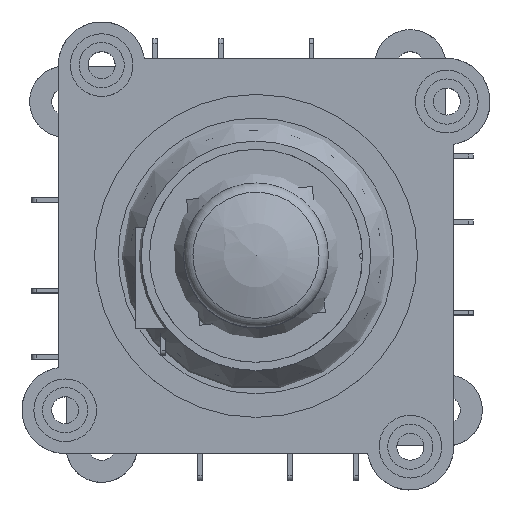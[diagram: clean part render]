
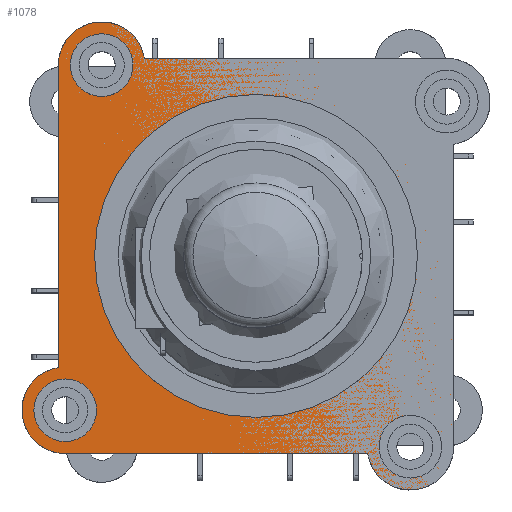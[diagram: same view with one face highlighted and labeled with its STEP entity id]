
A CAD part, top view. The second image highlights one B-rep face of the part: STEP entity #1078.
In plain terms, the highlighted planar face has unit normal (0, 0, 1).
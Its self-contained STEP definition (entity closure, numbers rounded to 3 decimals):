
#1078 = ADVANCED_FACE( '', ( #2340, #2341, #2342, #2343, #2344, #2345 ), #2346, .F. );
#2340 = FACE_BOUND( '', #3685, .T. );
#2341 = FACE_BOUND( '', #3686, .T. );
#2342 = FACE_BOUND( '', #3687, .T. );
#2343 = FACE_BOUND( '', #3688, .T. );
#2344 = FACE_BOUND( '', #3689, .T. );
#2345 = FACE_OUTER_BOUND( '', #3690, .T. );
#2346 = PLANE( '', #3691 );
#3685 = EDGE_LOOP( '', ( #6192 ) );
#3686 = EDGE_LOOP( '', ( #6193 ) );
#3687 = EDGE_LOOP( '', ( #6194 ) );
#3688 = EDGE_LOOP( '', ( #6195 ) );
#3689 = EDGE_LOOP( '', ( #6196 ) );
#3690 = EDGE_LOOP( '', ( #6197, #6198, #6199, #6200, #6201, #6202, #6203, #6204 ) );
#3691 = AXIS2_PLACEMENT_3D( '', #6205, #6206, #6207 );
#6192 = ORIENTED_EDGE( '', *, *, #6481, .T. );
#6193 = ORIENTED_EDGE( '', *, *, #6975, .T. );
#6194 = ORIENTED_EDGE( '', *, *, #7243, .T. );
#6195 = ORIENTED_EDGE( '', *, *, #7285, .T. );
#6196 = ORIENTED_EDGE( '', *, *, #6407, .T. );
#6197 = ORIENTED_EDGE( '', *, *, #7098, .F. );
#6198 = ORIENTED_EDGE( '', *, *, #7163, .F. );
#6199 = ORIENTED_EDGE( '', *, *, #6769, .F. );
#6200 = ORIENTED_EDGE( '', *, *, #6908, .F. );
#6201 = ORIENTED_EDGE( '', *, *, #7213, .F. );
#6202 = ORIENTED_EDGE( '', *, *, #7152, .F. );
#6203 = ORIENTED_EDGE( '', *, *, #6559, .F. );
#6204 = ORIENTED_EDGE( '', *, *, #6877, .F. );
#6205 = CARTESIAN_POINT( '', ( -16.01, 19.79, 1.9 ) );
#6206 = DIRECTION( '', ( 0., 0., -1. ) );
#6207 = DIRECTION( '', ( -1., 0., 0. ) );
#6407 = EDGE_CURVE( '', #7354, #7354, #7355, .T. );
#6481 = EDGE_CURVE( '', #7479, #7479, #7480, .T. );
#6559 = EDGE_CURVE( '', #7607, #7609, #7610, .T. );
#6769 = EDGE_CURVE( '', #7969, #7971, #7972, .T. );
#6877 = EDGE_CURVE( '', #8126, #7607, #8128, .T. );
#6908 = EDGE_CURVE( '', #8172, #7969, #8174, .T. );
#6975 = EDGE_CURVE( '', #8269, #8269, #8270, .T. );
#7098 = EDGE_CURVE( '', #8446, #8126, #8448, .T. );
#7152 = EDGE_CURVE( '', #7609, #8517, #8518, .T. );
#7163 = EDGE_CURVE( '', #7971, #8446, #8530, .T. );
#7213 = EDGE_CURVE( '', #8517, #8172, #8589, .T. );
#7243 = EDGE_CURVE( '', #8625, #8625, #8626, .T. );
#7285 = EDGE_CURVE( '', #8676, #8676, #8677, .T. );
#7354 = VERTEX_POINT( '', #8752 );
#7355 = CIRCLE( '', #8753, 3.25 );
#7479 = VERTEX_POINT( '', #8905 );
#7480 = CIRCLE( '', #8906, 16.75 );
#7607 = VERTEX_POINT( '', #9114 );
#7609 = VERTEX_POINT( '', #9117 );
#7610 = CIRCLE( '', #9118, 4.49 );
#7969 = VERTEX_POINT( '', #9572 );
#7971 = VERTEX_POINT( '', #9575 );
#7972 = CIRCLE( '', #9576, 4.49 );
#8126 = VERTEX_POINT( '', #9774 );
#8128 = LINE( '', #9777, #9778 );
#8172 = VERTEX_POINT( '', #9833 );
#8174 = LINE( '', #9836, #9837 );
#8269 = VERTEX_POINT( '', #9953 );
#8270 = CIRCLE( '', #9954, 3.25 );
#8446 = VERTEX_POINT( '', #10156 );
#8448 = CIRCLE( '', #10159, 4.49 );
#8517 = VERTEX_POINT( '', #10243 );
#8518 = LINE( '', #10244, #10245 );
#8530 = LINE( '', #10259, #10260 );
#8589 = CIRCLE( '', #10328, 4.49 );
#8625 = VERTEX_POINT( '', #10372 );
#8626 = CIRCLE( '', #10373, 3.25 );
#8676 = VERTEX_POINT( '', #10424 );
#8677 = CIRCLE( '', #10425, 3.25 );
#8752 = CARTESIAN_POINT( '', ( 12.76, -19.79, 1.9 ) );
#8753 = AXIS2_PLACEMENT_3D( '', #10496, #10497, #10498 );
#8905 = CARTESIAN_POINT( '', ( -16.75, 0., 1.9 ) );
#8906 = AXIS2_PLACEMENT_3D( '', #10599, #10600, #10601 );
#9114 = CARTESIAN_POINT( '', ( 19.79, 20.5, 1.9 ) );
#9117 = CARTESIAN_POINT( '', ( 20.5, 11.576, 1.9 ) );
#9118 = AXIS2_PLACEMENT_3D( '', #10710, #10711, #10712 );
#9572 = CARTESIAN_POINT( '', ( -19.79, -20.5, 1.9 ) );
#9575 = CARTESIAN_POINT( '', ( -20.5, -11.576, 1.9 ) );
#9576 = AXIS2_PLACEMENT_3D( '', #11043, #11044, #11045 );
#9774 = CARTESIAN_POINT( '', ( -11.576, 20.5, 1.9 ) );
#9777 = CARTESIAN_POINT( '', ( -11.576, 20.5, 1.9 ) );
#9778 = VECTOR( '', #11169, 1000. );
#9833 = CARTESIAN_POINT( '', ( 11.576, -20.5, 1.9 ) );
#9836 = CARTESIAN_POINT( '', ( 11.576, -20.5, 1.9 ) );
#9837 = VECTOR( '', #11203, 1000. );
#9953 = CARTESIAN_POINT( '', ( 16.54, 16.01, 1.9 ) );
#9954 = AXIS2_PLACEMENT_3D( '', #11288, #11289, #11290 );
#10156 = CARTESIAN_POINT( '', ( -20.5, 19.79, 1.9 ) );
#10159 = AXIS2_PLACEMENT_3D( '', #11456, #11457, #11458 );
#10243 = CARTESIAN_POINT( '', ( 20.5, -19.79, 1.9 ) );
#10244 = CARTESIAN_POINT( '', ( 20.5, 11.576, 1.9 ) );
#10245 = VECTOR( '', #11519, 1000. );
#10259 = CARTESIAN_POINT( '', ( -20.5, -11.576, 1.9 ) );
#10260 = VECTOR( '', #11531, 1000. );
#10328 = AXIS2_PLACEMENT_3D( '', #11580, #11581, #11582 );
#10372 = CARTESIAN_POINT( '', ( -19.26, 19.79, 1.9 ) );
#10373 = AXIS2_PLACEMENT_3D( '', #11606, #11607, #11608 );
#10424 = CARTESIAN_POINT( '', ( -23.04, -16.01, 1.9 ) );
#10425 = AXIS2_PLACEMENT_3D( '', #11634, #11635, #11636 );
#10496 = CARTESIAN_POINT( '', ( 16.01, -19.79, 1.9 ) );
#10497 = DIRECTION( '', ( 0., 0., -1. ) );
#10498 = DIRECTION( '', ( -1., 0., 0. ) );
#10599 = CARTESIAN_POINT( '', ( 0., 0., 1.9 ) );
#10600 = DIRECTION( '', ( 0., 0., -1. ) );
#10601 = DIRECTION( '', ( -1., 0., 0. ) );
#10710 = CARTESIAN_POINT( '', ( 19.79, 16.01, 1.9 ) );
#10711 = DIRECTION( '', ( 0., 0., -1. ) );
#10712 = DIRECTION( '', ( -1., 0., 0. ) );
#11043 = CARTESIAN_POINT( '', ( -19.79, -16.01, 1.9 ) );
#11044 = DIRECTION( '', ( 0., 0., -1. ) );
#11045 = DIRECTION( '', ( 1., 0., 0. ) );
#11169 = DIRECTION( '', ( 1., 0., 0. ) );
#11203 = DIRECTION( '', ( -1., 0., 0. ) );
#11288 = CARTESIAN_POINT( '', ( 19.79, 16.01, 1.9 ) );
#11289 = DIRECTION( '', ( 0., 0., -1. ) );
#11290 = DIRECTION( '', ( -1., 0., 0. ) );
#11456 = CARTESIAN_POINT( '', ( -16.01, 19.79, 1.9 ) );
#11457 = DIRECTION( '', ( 0., 0., -1. ) );
#11458 = DIRECTION( '', ( 1., 0., 0. ) );
#11519 = DIRECTION( '', ( 0., -1., 0. ) );
#11531 = DIRECTION( '', ( 0., 1., 0. ) );
#11580 = CARTESIAN_POINT( '', ( 16.01, -19.79, 1.9 ) );
#11581 = DIRECTION( '', ( 0., 0., -1. ) );
#11582 = DIRECTION( '', ( 1., 0., 0. ) );
#11606 = CARTESIAN_POINT( '', ( -16.01, 19.79, 1.9 ) );
#11607 = DIRECTION( '', ( 0., 0., -1. ) );
#11608 = DIRECTION( '', ( -1., 0., 0. ) );
#11634 = CARTESIAN_POINT( '', ( -19.79, -16.01, 1.9 ) );
#11635 = DIRECTION( '', ( 0., 0., -1. ) );
#11636 = DIRECTION( '', ( -1., 0., 0. ) );
